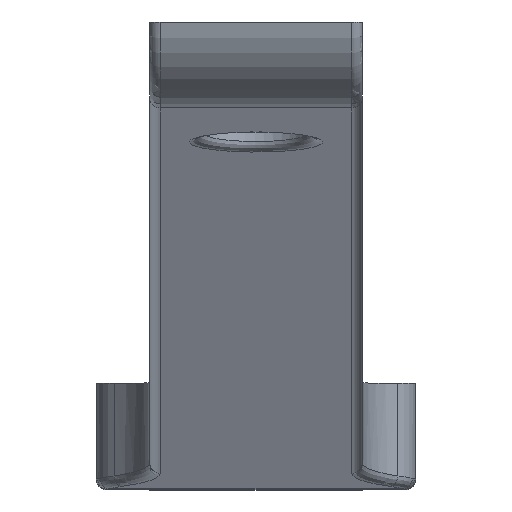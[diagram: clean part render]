
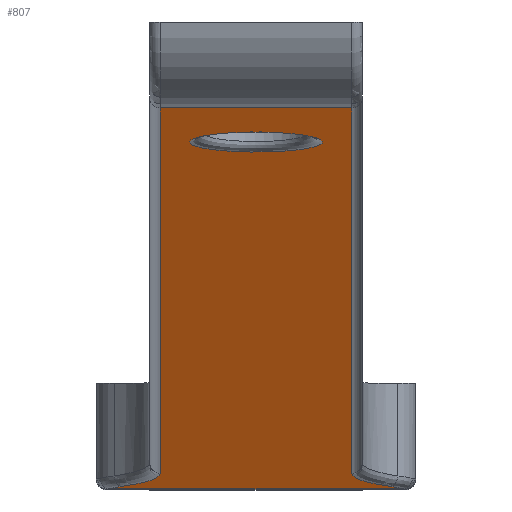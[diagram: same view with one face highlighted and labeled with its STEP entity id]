
A CAD part, top view. The second image highlights one B-rep face of the part: STEP entity #807.
In plain terms, the highlighted planar face has unit normal (0, -0.989, 0.147).
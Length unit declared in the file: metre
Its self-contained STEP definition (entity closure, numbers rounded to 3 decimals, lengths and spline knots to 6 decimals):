
#115=LINE('',#1268,#162);
#116=LINE('',#1270,#163);
#117=LINE('',#1272,#164);
#118=LINE('',#1278,#165);
#162=VECTOR('',#994,1.);
#163=VECTOR('',#995,1.);
#164=VECTOR('',#996,1.);
#165=VECTOR('',#1001,1.);
#209=ORIENTED_EDGE('',*,*,#453,.T.);
#210=ORIENTED_EDGE('',*,*,#454,.T.);
#211=ORIENTED_EDGE('',*,*,#455,.T.);
#212=ORIENTED_EDGE('',*,*,#456,.T.);
#213=ORIENTED_EDGE('',*,*,#457,.T.);
#214=ORIENTED_EDGE('',*,*,#458,.T.);
#215=ORIENTED_EDGE('',*,*,#459,.T.);
#216=ORIENTED_EDGE('',*,*,#460,.T.);
#217=ORIENTED_EDGE('',*,*,#461,.T.);
#453=EDGE_CURVE('',#575,#575,#652,.F.);
#454=EDGE_CURVE('',#576,#577,#653,.F.);
#455=EDGE_CURVE('',#577,#578,#115,.T.);
#456=EDGE_CURVE('',#578,#579,#116,.T.);
#457=EDGE_CURVE('',#579,#580,#117,.F.);
#458=EDGE_CURVE('',#580,#581,#654,.F.);
#459=EDGE_CURVE('',#581,#582,#655,.T.);
#460=EDGE_CURVE('',#582,#583,#118,.F.);
#461=EDGE_CURVE('',#583,#576,#656,.T.);
#575=VERTEX_POINT('',#1264);
#576=VERTEX_POINT('',#1266);
#577=VERTEX_POINT('',#1267);
#578=VERTEX_POINT('',#1269);
#579=VERTEX_POINT('',#1271);
#580=VERTEX_POINT('',#1273);
#581=VERTEX_POINT('',#1275);
#582=VERTEX_POINT('',#1277);
#583=VERTEX_POINT('',#1279);
#652=ELLIPSE('',#874,0.006318,0.00625);
#653=ELLIPSE('',#875,0.01112,0.011);
#654=ELLIPSE('',#876,0.01112,0.011);
#655=ELLIPSE('',#877,0.004044,0.004);
#656=ELLIPSE('',#878,0.004044,0.004);
#664=EDGE_LOOP('',(#209));
#665=EDGE_LOOP('',(#210,#211,#212,#213,#214,#215,#216,#217));
#729=FACE_BOUND('',#664,.T.);
#730=FACE_BOUND('',#665,.T.);
#794=PLANE('',#873);
#807=ADVANCED_FACE('',(#729,#730),#794,.T.);
#873=AXIS2_PLACEMENT_3D('',#1262,#988,#989);
#874=AXIS2_PLACEMENT_3D('',#1263,#990,#991);
#875=AXIS2_PLACEMENT_3D('',#1265,#992,#993);
#876=AXIS2_PLACEMENT_3D('',#1274,#997,#998);
#877=AXIS2_PLACEMENT_3D('',#1276,#999,#1000);
#878=AXIS2_PLACEMENT_3D('',#1280,#1002,#1003);
#988=DIRECTION('',(0.,-0.989,0.147));
#989=DIRECTION('',(0.,-0.147,-0.989));
#990=DIRECTION('',(0.,-0.989,0.147));
#991=DIRECTION('',(0.,0.147,0.989));
#992=DIRECTION('',(0.,-0.989,0.147));
#993=DIRECTION('',(0.,0.147,0.989));
#994=DIRECTION('',(0.,0.147,0.989));
#995=DIRECTION('',(-1.,0.,0.));
#996=DIRECTION('',(0.,0.147,0.989));
#997=DIRECTION('',(0.,-0.989,0.147));
#998=DIRECTION('',(0.,-0.147,-0.989));
#999=DIRECTION('',(0.,-0.989,0.147));
#1000=DIRECTION('',(0.,-0.147,-0.989));
#1001=DIRECTION('',(-1.,0.,0.));
#1002=DIRECTION('',(0.,-0.989,0.147));
#1003=DIRECTION('',(0.,0.147,0.989));
#1262=CARTESIAN_POINT('',(0.01,-0.07515,0.123708));
#1263=CARTESIAN_POINT('',(0.,-0.061228,0.217562));
#1264=CARTESIAN_POINT('',(0.,-0.060301,0.223812));
#1265=CARTESIAN_POINT('',(0.02,-0.091995,0.010147));
#1266=CARTESIAN_POINT('',(0.012667,-0.093211,0.001948));
#1267=CARTESIAN_POINT('',(0.009,-0.091995,0.010147));
#1268=CARTESIAN_POINT('',(0.009,-0.07515,0.123708));
#1269=CARTESIAN_POINT('',(0.009,-0.058066,0.238883));
#1270=CARTESIAN_POINT('',(-0.01,-0.058066,0.238883));
#1271=CARTESIAN_POINT('',(-0.009,-0.058066,0.238883));
#1272=CARTESIAN_POINT('',(-0.009,-0.092017,0.01));
#1273=CARTESIAN_POINT('',(-0.009,-0.091995,0.010147));
#1274=CARTESIAN_POINT('',(-0.02,-0.091995,0.010147));
#1275=CARTESIAN_POINT('',(-0.012667,-0.093211,0.001948));
#1276=CARTESIAN_POINT('',(-0.01,-0.093653,-0.001034));
#1277=CARTESIAN_POINT('',(-0.013748,-0.093446,0.000365));
#1278=CARTESIAN_POINT('',(0.015,-0.093446,0.000365));
#1279=CARTESIAN_POINT('',(0.013748,-0.093446,0.000365));
#1280=CARTESIAN_POINT('',(0.01,-0.093653,-0.001034));
